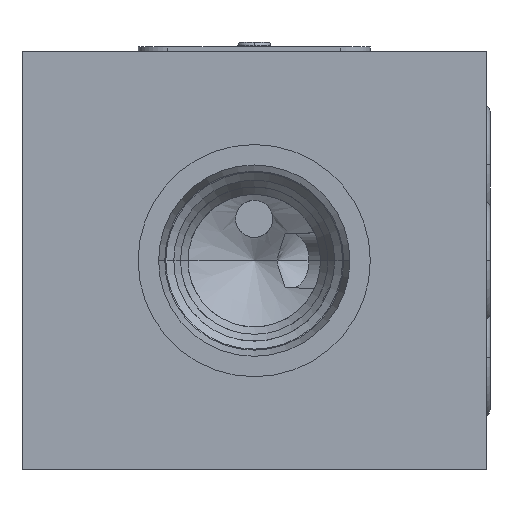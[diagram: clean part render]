
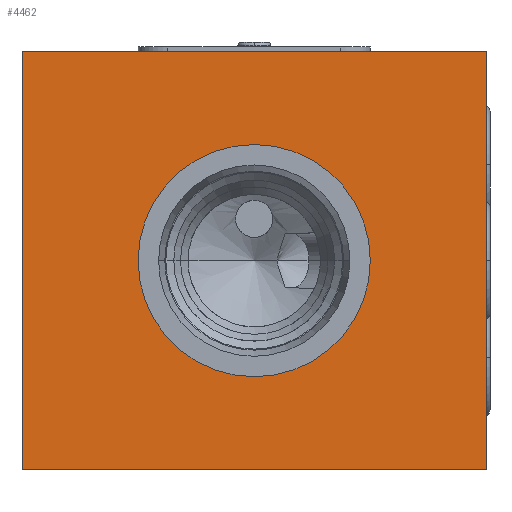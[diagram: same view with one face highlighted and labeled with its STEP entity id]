
A CAD part, left-side view. The second image highlights one B-rep face of the part: STEP entity #4462.
In plain terms, the highlighted planar face has unit normal (-1, 0, 0).
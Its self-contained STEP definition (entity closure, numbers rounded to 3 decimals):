
#56=DIRECTION('',(0.,0.,-1.));
#57=VECTOR('',#56,45.);
#58=CARTESIAN_POINT('',(0.,0.,0.));
#59=LINE('',#58,#57);
#63=DIRECTION('',(0.,1.,0.));
#64=VECTOR('',#63,50.);
#65=CARTESIAN_POINT('',(0.,0.,-45.));
#66=LINE('',#65,#64);
#70=DIRECTION('',(0.,0.,1.));
#71=VECTOR('',#70,45.);
#72=CARTESIAN_POINT('',(0.,50.,-45.));
#73=LINE('',#72,#71);
#77=DIRECTION('',(0.,-1.,0.));
#78=VECTOR('',#77,50.);
#79=CARTESIAN_POINT('',(0.,50.,0.));
#80=LINE('',#79,#78);
#84=CARTESIAN_POINT('',(0.,25.,-22.5));
#85=DIRECTION('',(1.,0.,0.));
#86=DIRECTION('',(0.,-1.,0.));
#87=AXIS2_PLACEMENT_3D('',#84,#85,#86);
#92=CARTESIAN_POINT('',(0.,25.,-22.5));
#93=DIRECTION('',(1.,0.,0.));
#94=DIRECTION('',(0.,1.,0.));
#95=AXIS2_PLACEMENT_3D('',#92,#93,#94);
#4097=CARTESIAN_POINT('',(0.,0.,0.));
#4098=CARTESIAN_POINT('',(0.,0.,-45.));
#4099=VERTEX_POINT('',#4097);
#4100=VERTEX_POINT('',#4098);
#4101=CARTESIAN_POINT('',(0.,50.,-45.));
#4102=VERTEX_POINT('',#4101);
#4103=CARTESIAN_POINT('',(0.,50.,0.));
#4104=VERTEX_POINT('',#4103);
#4265=CARTESIAN_POINT('',(0.,12.5,-22.5));
#4266=VERTEX_POINT('',#4265);
#4267=CARTESIAN_POINT('',(0.,37.5,-22.5));
#4268=VERTEX_POINT('',#4267);
#4441=CARTESIAN_POINT('',(0.,0.,0.));
#4442=DIRECTION('',(1.,0.,0.));
#4443=DIRECTION('',(0.,0.,-1.));
#4444=AXIS2_PLACEMENT_3D('',#4441,#4442,#4443);
#4445=PLANE('',#4444);
#4447=ORIENTED_EDGE('',*,*,#4446,.T.);
#4449=ORIENTED_EDGE('',*,*,#4448,.T.);
#4451=ORIENTED_EDGE('',*,*,#4450,.T.);
#4453=ORIENTED_EDGE('',*,*,#4452,.T.);
#4454=EDGE_LOOP('',(#4447,#4449,#4451,#4453));
#4455=FACE_OUTER_BOUND('',#4454,.F.);
#4457=ORIENTED_EDGE('',*,*,#4456,.F.);
#4459=ORIENTED_EDGE('',*,*,#4458,.F.);
#4460=EDGE_LOOP('',(#4457,#4459));
#4461=FACE_BOUND('',#4460,.F.);
#88=CIRCLE('',#87,12.5);
#96=CIRCLE('',#95,12.5);
#4446=EDGE_CURVE('',#4099,#4100,#59,.T.);
#4448=EDGE_CURVE('',#4100,#4102,#66,.T.);
#4450=EDGE_CURVE('',#4102,#4104,#73,.T.);
#4452=EDGE_CURVE('',#4104,#4099,#80,.T.);
#4456=EDGE_CURVE('',#4266,#4268,#88,.T.);
#4458=EDGE_CURVE('',#4268,#4266,#96,.T.);
#4462=ADVANCED_FACE('',(#4455,#4461),#4445,.F.);
